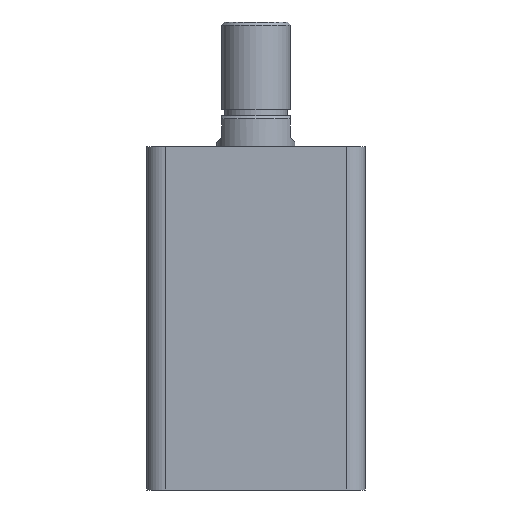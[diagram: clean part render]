
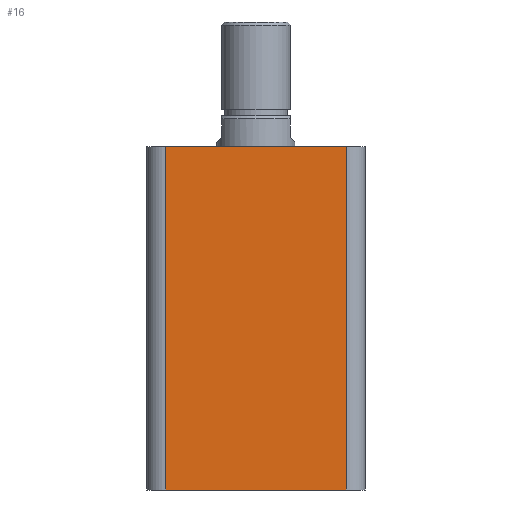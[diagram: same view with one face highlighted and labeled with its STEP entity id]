
A CAD part, front view. The second image highlights one B-rep face of the part: STEP entity #16.
In plain terms, the highlighted planar face has unit normal (0, -1, 0).
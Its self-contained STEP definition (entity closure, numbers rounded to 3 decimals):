
#16 = ADVANCED_FACE ( 'NONE', ( #290 ), #1860, .F. ) ;
#60 = AXIS2_PLACEMENT_3D ( 'NONE', #1864, #1856, #1855 ) ;
#189 = ORIENTED_EDGE ( 'NONE', *, *, #2111, .T. ) ;
#203 = ORIENTED_EDGE ( 'NONE', *, *, #2110, .F. ) ;
#204 = ORIENTED_EDGE ( 'NONE', *, *, #2112, .T. ) ;
#222 = ORIENTED_EDGE ( 'NONE', *, *, #2113, .T. ) ;
#290 = FACE_OUTER_BOUND ( 'NONE', #307, .T. ) ;
#307 = EDGE_LOOP ( 'NONE', ( #203, #189, #204, #222 ) ) ;
#739 = VERTEX_POINT ( 'NONE', #2408 ) ;
#764 = VERTEX_POINT ( 'NONE', #2379 ) ;
#781 = VERTEX_POINT ( 'NONE', #2357 ) ;
#803 = VERTEX_POINT ( 'NONE', #2331 ) ;
#1512 = VECTOR ( 'NONE', #2526, 1000. ) ;
#1514 = VECTOR ( 'NONE', #2527, 1000. ) ;
#1515 = LINE ( 'NONE', #2525, #1512 ) ;
#1516 = VECTOR ( 'NONE', #2528, 1000. ) ;
#1518 = VECTOR ( 'NONE', #2530, 1000. ) ;
#1519 = LINE ( 'NONE', #2529, #1516 ) ;
#1521 = LINE ( 'NONE', #2522, #1518 ) ;
#1527 = LINE ( 'NONE', #2540, #1514 ) ;
#1855 = DIRECTION ( 'NONE',  ( 0., 0., 1. ) ) ;
#1856 = DIRECTION ( 'NONE',  ( 0., 1., 0. ) ) ;
#1860 = PLANE ( 'NONE',  #60 ) ;
#1864 = CARTESIAN_POINT ( 'NONE',  ( -35., -35., 110. ) ) ;
#2110 = EDGE_CURVE ( 'NONE', #781, #803, #1521, .T. ) ;
#2111 = EDGE_CURVE ( 'NONE', #781, #764, #1519, .T. ) ;
#2112 = EDGE_CURVE ( 'NONE', #764, #739, #1527, .T. ) ;
#2113 = EDGE_CURVE ( 'NONE', #739, #803, #1515, .T. ) ;
#2331 = CARTESIAN_POINT ( 'NONE',  ( 29., -35., 110. ) ) ;
#2357 = CARTESIAN_POINT ( 'NONE',  ( -29., -35., 110. ) ) ;
#2379 = CARTESIAN_POINT ( 'NONE',  ( -29., -35., 0. ) ) ;
#2408 = CARTESIAN_POINT ( 'NONE',  ( 29., -35., 0. ) ) ;
#2522 = CARTESIAN_POINT ( 'NONE',  ( -35., -35., 110. ) ) ;
#2525 = CARTESIAN_POINT ( 'NONE',  ( 29., -35., 110. ) ) ;
#2526 = DIRECTION ( 'NONE',  ( 0., 0., 1. ) ) ;
#2527 = DIRECTION ( 'NONE',  ( 1., 0., 0. ) ) ;
#2528 = DIRECTION ( 'NONE',  ( 0., 0., -1. ) ) ;
#2529 = CARTESIAN_POINT ( 'NONE',  ( -29., -35., 110. ) ) ;
#2530 = DIRECTION ( 'NONE',  ( 1., 0., 0. ) ) ;
#2540 = CARTESIAN_POINT ( 'NONE',  ( -35., -35., 0. ) ) ;
